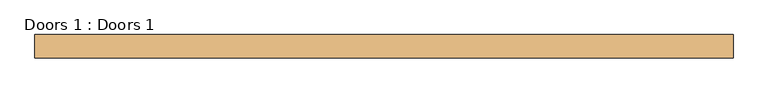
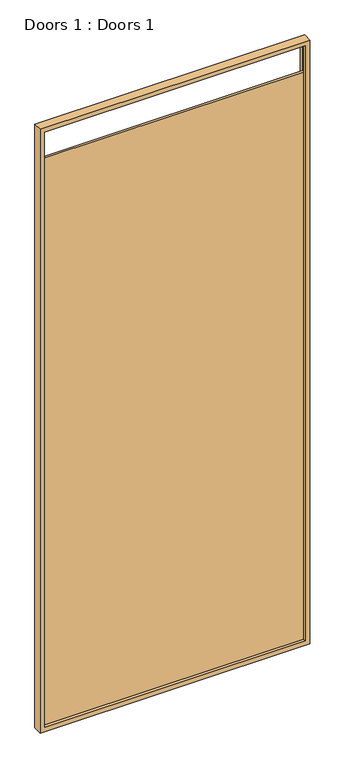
"""IFC4 building model written with IfcOpenShell, lengths in millimetres: door geometry, Doors 1 : Doors 1."""

import ifcopenshell
import ifcopenshell.guid

model = None  # the IFC model being written
_history = None  # IfcOwnerHistory: only IFC2X3 demands one
_inside = {}  # id of a spatial element -> (the spatial element, [elements in it])
_under = {}  # id of a project, library or spatial element -> (it, [spatial elements below it])
_declared = {}  # id of a project -> (the project, [libraries it declares])
_typed = {}  # id of a type object -> (the type object, [elements of that type])
_made_of = {}  # id of a material, layer set ... -> (it, [elements and type objects made of it])


def new_model(schema):
    """Start an empty IFC model of exactly this schema.

    Asked for "IFC4X3", IfcOpenShell would pick the latest addendum, in which some entities
    have other attributes; the version numbers below select the first issue.
    IFC2X3 requires an IfcOwnerHistory on every rooted entity: one is made here for all.
    """
    global model, _history
    if schema == "IFC4X3":
        model = ifcopenshell.file(schema_version=(4, 3, 0, 0))
    else:
        model = ifcopenshell.file(schema=schema)
    _inside.clear()
    _under.clear()
    _declared.clear()
    _typed.clear()
    _made_of.clear()
    _history = None
    if model.schema == "IFC2X3":
        org = make("IfcOrganization", Name="unknown")
        user = make(
            "IfcPersonAndOrganization",
            ThePerson=make("IfcPerson", FamilyName="unknown"),
            TheOrganization=org,
        )
        app = make(
            "IfcApplication",
            ApplicationDeveloper=org,
            Version="unknown",
            ApplicationFullName="unknown",
            ApplicationIdentifier="unknown",
        )
        _history = make(
            "IfcOwnerHistory",
            OwningUser=user,
            OwningApplication=app,
            ChangeAction="ADDED",
            CreationDate=0,
        )
    return model


def make(cls, **values):
    """One entity of the class cls with the attributes given. An attribute that is None is left unset."""
    return model.create_entity(
        cls, **{name: value for name, value in values.items() if value is not None}
    )


def rooted(cls, **values):
    """An entity with a GlobalId (a new one), such as an element, a storey or a relation."""
    return make(cls, GlobalId=ifcopenshell.guid.new(), OwnerHistory=_history, **values)


def si_unit(unit_type, name, prefix=None):
    """IfcSIUnit, for example si_unit("LENGTHUNIT", "METRE", prefix="MILLI")."""
    return make("IfcSIUnit", UnitType=unit_type, Prefix=prefix, Name=name)


def assignment(units):
    """IfcUnitAssignment: the units of a project."""
    return None if units is None else make("IfcUnitAssignment", Units=units)


def point(xyz):
    """IfcCartesianPoint."""
    return None if xyz is None else make("IfcCartesianPoint", Coordinates=xyz)


def direction(xyz):
    """IfcDirection."""
    return None if xyz is None else make("IfcDirection", DirectionRatios=xyz)


def frame(location, z_axis=None, x_axis=None):
    """IfcAxis2Placement3D, a coordinate frame: its origin and axes. An axis left out is left unset."""
    return make(
        "IfcAxis2Placement3D",
        Location=point(location),
        Axis=direction(z_axis),
        RefDirection=direction(x_axis),
    )


def origin():
    """The frame at (0, 0, 0) with its axes left unset."""
    return frame((0.0, 0.0, 0.0))


def place(relative_to, where):
    """IfcLocalPlacement: puts the frame where relative to a parent placement (None: the world)."""
    return make(
        "IfcLocalPlacement", PlacementRelTo=relative_to, RelativePlacement=where
    )


def context(
    kind, dimensions, precision=None, world=None, true_north=None, identifier=None
):
    """IfcGeometricRepresentationContext, for example the 3D "Model" context."""
    return make(
        "IfcGeometricRepresentationContext",
        ContextIdentifier=identifier,
        ContextType=kind,
        CoordinateSpaceDimension=dimensions,
        Precision=precision,
        WorldCoordinateSystem=world,
        TrueNorth=true_north,
    )


def project(units=None, contexts=None):
    """IfcProject with its units and contexts."""
    return rooted(
        "IfcProject",
        Name="project",
        RepresentationContexts=contexts,
        UnitsInContext=assignment(units),
    )


def spatial(cls, under=None, at=None, **own):
    """A site, building, storey or space (cls), placed at a placement, below another one or the project."""
    s = rooted(cls, ObjectPlacement=at, **own)
    if under is not None:
        _under.setdefault(under.id(), (under, []))[1].append(s)
    return s


def polyline(points):
    """IfcPolyline through the points."""
    return make("IfcPolyline", Points=[point(p) for p in points])


def outline(outer, holes=None, kind="AREA"):
    """IfcArbitraryClosedProfileDef: a profile drawn as a closed curve; with holes, ...WithVoids."""
    if holes is None:
        return make("IfcArbitraryClosedProfileDef", ProfileType=kind, OuterCurve=outer)
    return make(
        "IfcArbitraryProfileDefWithVoids",
        ProfileType=kind,
        OuterCurve=outer,
        InnerCurves=holes,
    )


def extrude(swept, where, along, depth):
    """IfcExtrudedAreaSolid: the profile swept, set in the frame where, extruded along a direction by depth."""
    return make(
        "IfcExtrudedAreaSolid",
        SweptArea=swept,
        Position=where,
        ExtrudedDirection=direction(along),
        Depth=depth,
    )


def faces_of(points, faces, orient=None, outer=None):
    """IfcFace entities. A face is a list of loops; a loop is a list of indices into points, from 0.

    orient and outer hold one flag for each loop. By default every Orientation is true, the
    first loop of a face is its IfcFaceOuterBound and the others are IfcFaceBound.
    """
    made = []
    for i, loops in enumerate(faces):
        bounds = []
        for j, loop in enumerate(loops):
            is_outer = j == 0 if outer is None else outer[i][j]
            bounds.append(
                make(
                    "IfcFaceOuterBound" if is_outer else "IfcFaceBound",
                    Bound=make("IfcPolyLoop", Polygon=[points[k] for k in loop]),
                    Orientation=True if orient is None else orient[i][j],
                )
            )
        made.append(make("IfcFace", Bounds=bounds))
    return made


def faceted_brep(points, faces, orient=None, outer=None, voids=None):
    """IfcFacetedBrep: a solid bounded by flat faces; with voids (closed shells), ...WithVoids."""
    shared = [point(p) for p in points]
    hull = make("IfcClosedShell", CfsFaces=faces_of(shared, faces, orient, outer))
    if voids is None:
        return make("IfcFacetedBrep", Outer=hull)
    return make(
        "IfcFacetedBrepWithVoids",
        Outer=hull,
        Voids=[
            make(cls, CfsFaces=faces_of(shared, fs, o, b)) for cls, fs, o, b in voids
        ],
    )


def shape(context_of_items, identifier, shape_type, items):
    """IfcShapeRepresentation: the items that make up one representation, for example the "Body"."""
    return make(
        "IfcShapeRepresentation",
        ContextOfItems=context_of_items,
        RepresentationIdentifier=identifier,
        RepresentationType=shape_type,
        Items=items,
    )


def source(mapping_origin, context_of_items, identifier, shape_type, items):
    """IfcRepresentationMap: a shape defined once, which mapped items show again and again."""
    return make(
        "IfcRepresentationMap",
        MappingOrigin=mapping_origin,
        MappedRepresentation=shape(context_of_items, identifier, shape_type, items),
    )


def transform(
    local_origin,
    x_axis=None,
    y_axis=None,
    z_axis=None,
    scale=None,
    scale2=None,
    scale3=None,
    uniform=True,
):
    """IfcCartesianTransformationOperator3D, or its non-uniform kind. x_axis, y_axis, z_axis: its Axis1, 2, 3."""
    if uniform:
        return make(
            "IfcCartesianTransformationOperator3D",
            Axis1=direction(x_axis),
            Axis2=direction(y_axis),
            LocalOrigin=point(local_origin),
            Scale=scale,
            Axis3=direction(z_axis),
        )
    return make(
        "IfcCartesianTransformationOperator3DnonUniform",
        Axis1=direction(x_axis),
        Axis2=direction(y_axis),
        LocalOrigin=point(local_origin),
        Scale=scale,
        Axis3=direction(z_axis),
        Scale2=scale2,
        Scale3=scale3,
    )


def mapped(mapping_source, mapping_target):
    """IfcMappedItem: shows the shape of a source again, moved by a transform."""
    return make(
        "IfcMappedItem", MappingSource=mapping_source, MappingTarget=mapping_target
    )


def made_of(thing, what):
    """Note that an element or type object is made of a material, layer set ...; save() writes the relation."""
    if what is not None:
        _made_of.setdefault(what.id(), (what, []))[1].append(thing)
    return thing


def element(
    cls,
    number,
    at=None,
    inside=None,
    cuts=None,
    type_object=None,
    material=None,
    context=None,
    identifier="Body",
    shape_type=None,
    held_by="IfcProductDefinitionShape",
    body=None,
    shapes=None,
    **own,
):
    """One element of the class cls, such as IfcWall. Its Tag is "e" and its number.

    at: its placement. inside: the storey or other place that contains it. cuts: it is an
    opening in that element (IfcRelVoidsElement). A single representation is given by context,
    identifier, shape_type and body (its items); several are given by shapes. held_by: the class
    of the entity that holds the representations. save() writes the other relations.
    """
    e = rooted(cls, Tag="e%d" % number, ObjectPlacement=at, **own)
    if body is not None:
        shapes = [shape(context, identifier, shape_type, body)]
    if shapes is not None:
        e.Representation = make(held_by, Representations=shapes)
    if inside is not None:
        _inside.setdefault(inside.id(), (inside, []))[1].append(e)
    if cuts is not None:
        rooted(
            "IfcRelVoidsElement", RelatingBuildingElement=cuts, RelatedOpeningElement=e
        )
    if type_object is not None:
        _typed.setdefault(type_object.id(), (type_object, []))[1].append(e)
    return made_of(e, material)


def aggregate(whole, parts):
    """IfcRelAggregates: a whole, such as a stair, and the parts it consists of."""
    return rooted("IfcRelAggregates", RelatingObject=whole, RelatedObjects=parts)


def save(model, path):
    """Write the relations noted so far, then the file.

    IfcRelAggregates (storeys below a building ...), IfcRelContainedInSpatialStructure (elements
    in a storey), IfcRelDefinesByType, IfcRelAssociatesMaterial and IfcRelDeclares: one each for
    every whole, place, type object, material and project.
    """
    for whole, parts in _under.values():
        aggregate(whole, parts)
    for where, things in _inside.values():
        rooted(
            "IfcRelContainedInSpatialStructure",
            RelatedElements=things,
            RelatingStructure=where,
        )
    for kind, things in _typed.values():
        rooted("IfcRelDefinesByType", RelatedObjects=things, RelatingType=kind)
    for what, things in _made_of.values():
        rooted("IfcRelAssociatesMaterial", RelatedObjects=things, RelatingMaterial=what)
    for by, libraries in _declared.values():
        rooted("IfcRelDeclares", RelatingContext=by, RelatedDefinitions=libraries)
    model.write(path)


def doors_1_doors_1_f20e9d7d(model_context):
    return source(origin(), model_context, "Body", "SolidModel", [
        extrude(outline(polyline([(12454.5756115, 12103.270835), (12454.5756115, 12093.270835), (11284.5756115, 12093.270835), (11284.5756115, 12103.270835), (12454.5756115, 12103.270835)])), frame((0.0, 0.0, 15.0), z_axis=(0.0, 0.0, 1.0), x_axis=(1.0, 0.0, 0.0)), (0.0, 0.0, 1.0), 2670.0),
        faceted_brep([(11269.5756115, 12118.2664981, 2837.5654318), (11269.5756115, 12078.2664981, 2837.5654318), (12469.5756115, 12078.2664981, 2837.5654318), (12469.5756115, 12118.2664981, 2837.5654318), (11289.5756115, 12103.270835, 2817.5654318), (11289.5756115, 12118.2664981, 2817.5654318), (12449.5756115, 12118.2664981, 2817.5654318), (12449.5756115, 12103.270835, 2817.5654318), (11284.5756115, 12103.270835, 2822.5654318), (12454.5756115, 12103.270835, 2822.5654318), (12454.5756115, 12093.270835, 2822.5654318), (11284.5756115, 12093.270835, 2822.5654318), (11289.5756115, 12078.2664981, 2817.5654318), (11289.5756115, 12093.270835, 2817.5654318), (12449.5756115, 12093.270835, 2817.5654318), (12449.5756115, 12078.2664981, 2817.5654318), (12469.5756115, 12078.2664981, 0.0), (12469.5756115, 12118.2664981, 0.0), (12449.5756115, 12118.2664981, 20.0), (12449.5756115, 12103.270835, 20.0), (12454.5756115, 12103.270835, 15.0), (12454.5756115, 12093.270835, 15.0), (12449.5756115, 12093.270835, 20.0), (12449.5756115, 12078.2664981, 20.0), (11269.5756115, 12078.2664981, 0.0), (11269.5756115, 12118.2664981, 0.0), (11289.5756115, 12118.2664981, 20.0), (11289.5756115, 12103.270835, 20.0), (11284.5756115, 12103.270835, 15.0), (11284.5756115, 12093.270835, 15.0), (11289.5756115, 12093.270835, 20.0), (11289.5756115, 12078.2664981, 20.0)], [[[0, 1, 2, 3]], [[4, 5, 6, 7]], [[8, 9, 10, 11]], [[12, 13, 14, 15]], [[3, 2, 16, 17]], [[7, 6, 18, 19]], [[10, 9, 20, 21]], [[15, 14, 22, 23]], [[17, 16, 24, 25]], [[19, 18, 26, 27]], [[21, 20, 28, 29]], [[23, 22, 30, 31]], [[25, 24, 1, 0]], [[3, 17, 25, 0], [5, 26, 18, 6]], [[27, 26, 5, 4]], [[8, 28, 20, 9], [7, 19, 27, 4]], [[29, 28, 8, 11]], [[10, 21, 29, 11], [13, 30, 22, 14]], [[31, 30, 13, 12]], [[1, 24, 16, 2], [15, 23, 31, 12]]]),
    ])


if __name__ == "__main__":
    model = new_model("IFC4")
    model_context = context("Model", 3, world=origin())
    ifc_project = project(units=[si_unit("LENGTHUNIT", "METRE", prefix="MILLI")], contexts=[model_context])
    site = spatial("IfcSite", under=ifc_project)
    building = spatial("IfcBuilding", under=site)
    placement = place(None, origin())
    doors_1_doors_1_shape = doors_1_doors_1_f20e9d7d(model_context)
    element("IfcDoor", 1, ObjectType="Doors 1 : Doors 1", at=placement, inside=building, context=model_context, shape_type="MappedRepresentation", body=[
        mapped(doors_1_doors_1_shape, transform((0.0, 0.0, 0.0), x_axis=(1.0, 0.0, 0.0), y_axis=(0.0, 1.0, 0.0), z_axis=(0.0, 0.0, 1.0))),
    ])
    save(model, "model.ifc")
